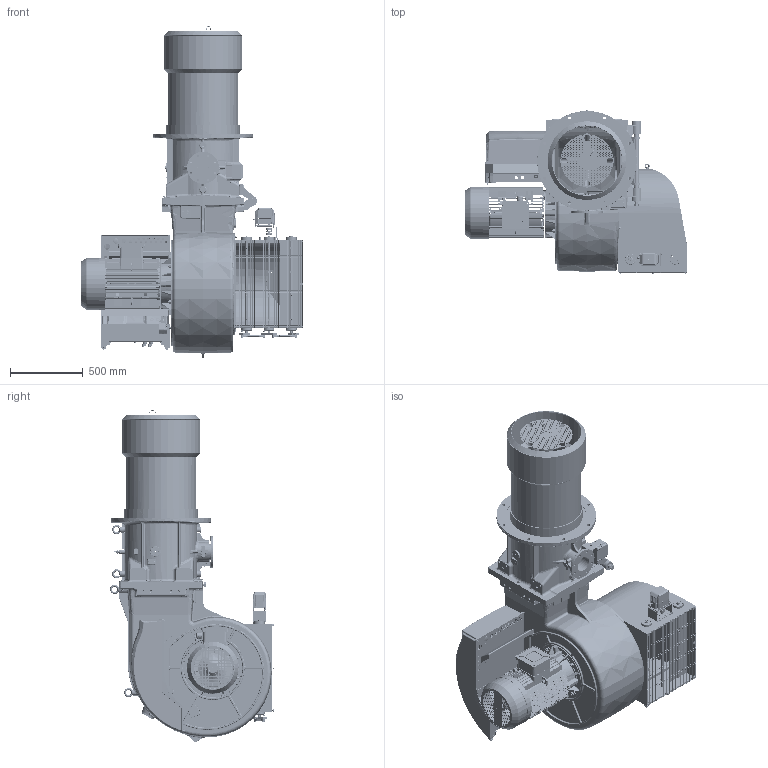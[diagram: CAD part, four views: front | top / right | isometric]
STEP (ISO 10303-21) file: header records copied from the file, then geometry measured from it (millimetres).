
FILE_DESCRIPTION (( 'STEP AP214' ), '1' );
FILE_NAME ('67480010.STEP', '2019-12-13T07:48:09', ( '' ), ( '' ), 'SwSTEP 2.0', 'SolidWorks 2018', '' );
FILE_SCHEMA (( 'AUTOMOTIVE_DESIGN' ));
Length unit declared in the file: millimetre
Products named in the file (1): 67480010
Bounding box: 1531.5 x 1126.19 x 2283.39 mm (x, y, z)
Surface area: 17127798.5 mm2 (no closed solid volume)
Topology: 0 solids, 1032 shells, 5425 faces, 27338 edges, 22044 vertices
Faces by surface type: plane 2296, cylinder 1734, bspline 851, cone 380, torus 140, sphere 24
Full cylindrical faces by diameter (mm): 0.8 x1, 2 x1, 2.5 x2, 3 x48, 3.3 x4, 3.5 x1, 3.95 x2, 4 x5, 4.7 x1, 4.917 x1, 5 x12, 5.4 x1, 6 x354, 6.4 x4, 6.5 x2, 6.75 x1, 6.8 x8, 7 x6, 7.5 x1, 8 x13, 8.083 x1, 8.5 x10, 9 x1, 9.3 x1, 9.5 x4, 10 x28, 10.2 x3, 10.5 x2, 11 x11, 12 x11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
Entity records: 456676 total; most frequent: CARTESIAN_POINT 202755, DIRECTION 35107, ORIENTED_EDGE 33118, EDGE_CURVE 26088, VERTEX_POINT 21868, VECTOR 12649, LINE 12649, AXIS2_PLACEMENT_3D 11229
